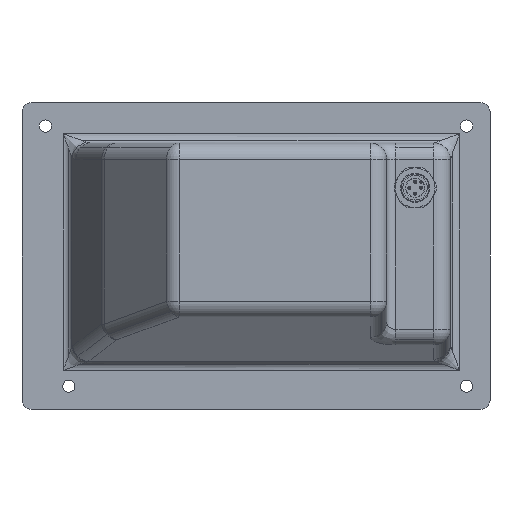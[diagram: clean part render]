
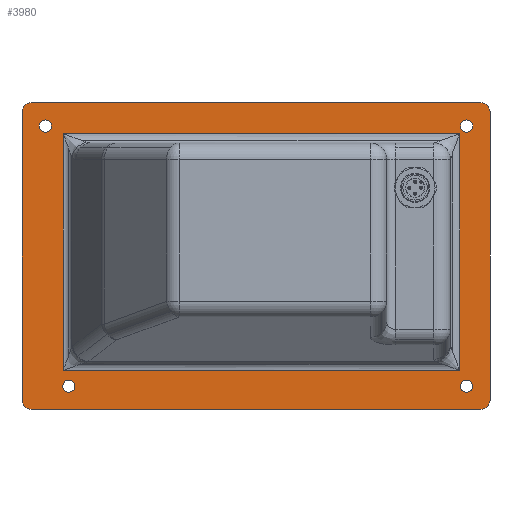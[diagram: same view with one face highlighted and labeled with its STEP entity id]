
A CAD part, left-side view. The second image highlights one B-rep face of the part: STEP entity #3980.
In plain terms, the highlighted planar face has unit normal (-1, 0, 0).
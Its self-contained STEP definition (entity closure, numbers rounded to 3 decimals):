
#446=CARTESIAN_POINT('',(-14.,-87.,-48.884));
#447=VERTEX_POINT('',#446);
#455=CARTESIAN_POINT('',(-14.,-87.,52.25));
#456=VERTEX_POINT('',#455);
#457=CARTESIAN_POINT('',(-14.,-87.,-48.884));
#458=DIRECTION('',(0.0,0.0,1.0));
#459=VECTOR('',#458,101.134);
#460=LINE('',#457,#459);
#461=EDGE_CURVE('',#447,#456,#460,.T.);
#495=CARTESIAN_POINT('',(-14.,82.38,52.25));
#496=VERTEX_POINT('',#495);
#497=CARTESIAN_POINT('',(-14.,-87.,52.25));
#498=DIRECTION('',(0.0,1.0,0.0));
#499=VECTOR('',#498,169.38);
#500=LINE('',#497,#499);
#501=EDGE_CURVE('',#456,#496,#500,.T.);
#2605=CARTESIAN_POINT('',(-14.,82.6,-55.65));
#2606=VERTEX_POINT('',#2605);
#2615=CARTESIAN_POINT('',(-14.,77.4,-55.65));
#2616=VERTEX_POINT('',#2615);
#2617=CARTESIAN_POINT('',(-14.,80.,-55.65));
#2618=DIRECTION('',(1.0,0.0,0.0));
#2619=DIRECTION('',(0.0,1.0,0.0));
#2620=AXIS2_PLACEMENT_3D('',#2617,#2618,#2619);
#2621=CIRCLE('',#2620,2.6);
#2622=EDGE_CURVE('',#2616,#2606,#2621,.T.);
#2721=CARTESIAN_POINT('',(-14.,-87.4,55.55));
#2722=VERTEX_POINT('',#2721);
#2731=CARTESIAN_POINT('',(-14.,-92.6,55.55));
#2732=VERTEX_POINT('',#2731);
#2733=CARTESIAN_POINT('',(-14.,-90.0,55.55));
#2734=DIRECTION('',(1.0,0.0,0.0));
#2735=DIRECTION('',(0.0,1.0,0.0));
#2736=AXIS2_PLACEMENT_3D('',#2733,#2734,#2735);
#2737=CIRCLE('',#2736,2.6);
#2738=EDGE_CURVE('',#2732,#2722,#2737,.T.);
#2837=CARTESIAN_POINT('',(-14.,92.6,55.55));
#2838=VERTEX_POINT('',#2837);
#2847=CARTESIAN_POINT('',(-14.,87.4,55.55));
#2848=VERTEX_POINT('',#2847);
#2849=CARTESIAN_POINT('',(-14.,90.0,55.55));
#2850=DIRECTION('',(1.0,0.0,0.0));
#2851=DIRECTION('',(0.0,1.0,0.0));
#2852=AXIS2_PLACEMENT_3D('',#2849,#2850,#2851);
#2853=CIRCLE('',#2852,2.6);
#2854=EDGE_CURVE('',#2848,#2838,#2853,.T.);
#2953=CARTESIAN_POINT('',(-14.,-87.4,-55.65));
#2954=VERTEX_POINT('',#2953);
#2963=CARTESIAN_POINT('',(-14.,-92.6,-55.65));
#2964=VERTEX_POINT('',#2963);
#2965=CARTESIAN_POINT('',(-14.,-90.,-55.65));
#2966=DIRECTION('',(1.0,0.0,0.0));
#2967=DIRECTION('',(0.0,1.0,0.0));
#2968=AXIS2_PLACEMENT_3D('',#2965,#2966,#2967);
#2969=CIRCLE('',#2968,2.6);
#2970=EDGE_CURVE('',#2964,#2954,#2969,.T.);
#3255=CARTESIAN_POINT('',(-14.,98.828,-64.378));
#3256=VERTEX_POINT('',#3255);
#3265=CARTESIAN_POINT('',(-14.,100.0,-61.55));
#3266=VERTEX_POINT('',#3265);
#3267=CARTESIAN_POINT('',(-14.,96.0,-61.55));
#3268=DIRECTION('',(1.,0.,0.));
#3269=DIRECTION('',(0.,0.707,-0.707));
#3270=AXIS2_PLACEMENT_3D('',#3267,#3268,#3269);
#3271=CIRCLE('',#3270,4.0);
#3272=EDGE_CURVE('',#3256,#3266,#3271,.T.);
#3299=CARTESIAN_POINT('',(-14.,98.828,64.378));
#3300=VERTEX_POINT('',#3299);
#3316=CARTESIAN_POINT('',(-14.,100.0,61.55));
#3317=VERTEX_POINT('',#3316);
#3324=CARTESIAN_POINT('',(-14.,96.0,61.55));
#3325=DIRECTION('',(1.,0.,0.));
#3326=DIRECTION('',(0.,0.707,0.707));
#3327=AXIS2_PLACEMENT_3D('',#3324,#3325,#3326);
#3328=CIRCLE('',#3327,4.0);
#3329=EDGE_CURVE('',#3317,#3300,#3328,.T.);
#3383=CARTESIAN_POINT('',(-14.,-98.828,-64.378));
#3384=VERTEX_POINT('',#3383);
#3400=CARTESIAN_POINT('',(-14.,-100.0,-61.55));
#3401=VERTEX_POINT('',#3400);
#3408=CARTESIAN_POINT('',(-14.,-96.0,-61.55));
#3409=DIRECTION('',(1.,0.,0.));
#3410=DIRECTION('',(0.,-0.707,-0.707));
#3411=AXIS2_PLACEMENT_3D('',#3408,#3409,#3410);
#3412=CIRCLE('',#3411,4.0);
#3413=EDGE_CURVE('',#3401,#3384,#3412,.T.);
#3463=CARTESIAN_POINT('',(-14.,-98.828,64.378));
#3464=VERTEX_POINT('',#3463);
#3473=CARTESIAN_POINT('',(-14.,-100.0,61.55));
#3474=VERTEX_POINT('',#3473);
#3475=CARTESIAN_POINT('',(-14.,-96.0,61.55));
#3476=DIRECTION('',(1.,0.,0.));
#3477=DIRECTION('',(0.,-0.707,0.707));
#3478=AXIS2_PLACEMENT_3D('',#3475,#3476,#3477);
#3479=CIRCLE('',#3478,4.0);
#3480=EDGE_CURVE('',#3464,#3474,#3479,.T.);
#3582=CARTESIAN_POINT('',(-14.,-96.0,65.55));
#3583=VERTEX_POINT('',#3582);
#3590=CARTESIAN_POINT('',(-14.,-96.0,61.55));
#3591=DIRECTION('',(1.,0.,0.));
#3592=DIRECTION('',(0.,-0.707,0.707));
#3593=AXIS2_PLACEMENT_3D('',#3590,#3591,#3592);
#3594=CIRCLE('',#3593,4.0);
#3595=EDGE_CURVE('',#3583,#3464,#3594,.T.);
#3665=CARTESIAN_POINT('',(-14.,-96.0,-65.55));
#3666=VERTEX_POINT('',#3665);
#3667=CARTESIAN_POINT('',(-14.,-96.0,-61.55));
#3668=DIRECTION('',(1.,0.,0.));
#3669=DIRECTION('',(0.,-0.707,-0.707));
#3670=AXIS2_PLACEMENT_3D('',#3667,#3668,#3669);
#3671=CIRCLE('',#3670,4.0);
#3672=EDGE_CURVE('',#3384,#3666,#3671,.T.);
#3754=CARTESIAN_POINT('',(-14.,96.0,65.55));
#3755=VERTEX_POINT('',#3754);
#3756=CARTESIAN_POINT('',(-14.,96.0,61.55));
#3757=DIRECTION('',(1.,0.,0.));
#3758=DIRECTION('',(0.,0.707,0.707));
#3759=AXIS2_PLACEMENT_3D('',#3756,#3757,#3758);
#3760=CIRCLE('',#3759,4.0);
#3761=EDGE_CURVE('',#3300,#3755,#3760,.T.);
#3828=CARTESIAN_POINT('',(-14.,96.0,65.55));
#3829=DIRECTION('',(0.0,-1.0,0.0));
#3830=VECTOR('',#3829,192.0);
#3831=LINE('',#3828,#3830);
#3832=EDGE_CURVE('',#3755,#3583,#3831,.T.);
#3847=CARTESIAN_POINT('',(-14.,100.0,61.55));
#3848=DIRECTION('',(0.0,0.0,-1.0));
#3849=VECTOR('',#3848,123.1);
#3850=LINE('',#3847,#3849);
#3851=EDGE_CURVE('',#3317,#3266,#3850,.T.);
#3863=CARTESIAN_POINT('',(-14.,96.0,-65.55));
#3864=VERTEX_POINT('',#3863);
#3871=CARTESIAN_POINT('',(-14.,96.0,-61.55));
#3872=DIRECTION('',(1.,0.,0.));
#3873=DIRECTION('',(0.,0.707,-0.707));
#3874=AXIS2_PLACEMENT_3D('',#3871,#3872,#3873);
#3875=CIRCLE('',#3874,4.0);
#3876=EDGE_CURVE('',#3864,#3256,#3875,.T.);
#3888=CARTESIAN_POINT('',(-14.,-96.0,-65.55));
#3889=DIRECTION('',(0.0,1.0,0.0));
#3890=VECTOR('',#3889,192.0);
#3891=LINE('',#3888,#3890);
#3892=EDGE_CURVE('',#3666,#3864,#3891,.T.);
#3898=CARTESIAN_POINT('',(-14.,0.0,-65.55));
#3899=DIRECTION('',(-1.0,0.0,0.0));
#3900=DIRECTION('',(0.0,0.0,1.0));
#3901=AXIS2_PLACEMENT_3D('',#3898,#3899,#3900);
#3902=PLANE('',#3901);
#3903=ORIENTED_EDGE('',*,*,#3329,.F.);
#3904=ORIENTED_EDGE('',*,*,#3851,.T.);
#3905=ORIENTED_EDGE('',*,*,#3272,.F.);
#3906=ORIENTED_EDGE('',*,*,#3876,.F.);
#3907=ORIENTED_EDGE('',*,*,#3892,.F.);
#3908=ORIENTED_EDGE('',*,*,#3672,.F.);
#3909=ORIENTED_EDGE('',*,*,#3413,.F.);
#3910=CARTESIAN_POINT('',(-14.,-100.0,61.55));
#3911=DIRECTION('',(0.0,0.0,-1.0));
#3912=VECTOR('',#3911,123.1);
#3913=LINE('',#3910,#3912);
#3914=EDGE_CURVE('',#3474,#3401,#3913,.T.);
#3915=ORIENTED_EDGE('',*,*,#3914,.F.);
#3916=ORIENTED_EDGE('',*,*,#3480,.F.);
#3917=ORIENTED_EDGE('',*,*,#3595,.F.);
#3918=ORIENTED_EDGE('',*,*,#3832,.F.);
#3919=ORIENTED_EDGE('',*,*,#3761,.F.);
#3920=EDGE_LOOP('',(#3903,#3904,#3905,#3906,#3907,#3908,#3909,#3915,#3916,#3917,#3918,#3919));
#3921=FACE_OUTER_BOUND('',#3920,.T.);
#3922=ORIENTED_EDGE('',*,*,#501,.F.);
#3923=ORIENTED_EDGE('',*,*,#461,.F.);
#3924=CARTESIAN_POINT('',(-14.,82.38,-48.884));
#3925=VERTEX_POINT('',#3924);
#3926=CARTESIAN_POINT('',(-14.,82.38,-48.884));
#3927=DIRECTION('',(0.0,-1.0,0.0));
#3928=VECTOR('',#3927,169.38);
#3929=LINE('',#3926,#3928);
#3930=EDGE_CURVE('',#3925,#447,#3929,.T.);
#3931=ORIENTED_EDGE('',*,*,#3930,.F.);
#3932=CARTESIAN_POINT('',(-14.,82.38,52.25));
#3933=DIRECTION('',(0.0,0.0,-1.0));
#3934=VECTOR('',#3933,101.134);
#3935=LINE('',#3932,#3934);
#3936=EDGE_CURVE('',#496,#3925,#3935,.T.);
#3937=ORIENTED_EDGE('',*,*,#3936,.F.);
#3938=EDGE_LOOP('',(#3922,#3923,#3931,#3937));
#3939=FACE_BOUND('',#3938,.T.);
#3940=ORIENTED_EDGE('',*,*,#2622,.T.);
#3941=CARTESIAN_POINT('',(-14.,80.,-55.65));
#3942=DIRECTION('',(1.0,0.0,0.0));
#3943=DIRECTION('',(0.0,1.0,0.0));
#3944=AXIS2_PLACEMENT_3D('',#3941,#3942,#3943);
#3945=CIRCLE('',#3944,2.6);
#3946=EDGE_CURVE('',#2606,#2616,#3945,.T.);
#3947=ORIENTED_EDGE('',*,*,#3946,.T.);
#3948=EDGE_LOOP('',(#3940,#3947));
#3949=FACE_BOUND('',#3948,.T.);
#3950=ORIENTED_EDGE('',*,*,#2738,.T.);
#3951=CARTESIAN_POINT('',(-14.,-90.0,55.55));
#3952=DIRECTION('',(1.0,0.0,0.0));
#3953=DIRECTION('',(0.0,1.0,0.0));
#3954=AXIS2_PLACEMENT_3D('',#3951,#3952,#3953);
#3955=CIRCLE('',#3954,2.6);
#3956=EDGE_CURVE('',#2722,#2732,#3955,.T.);
#3957=ORIENTED_EDGE('',*,*,#3956,.T.);
#3958=EDGE_LOOP('',(#3950,#3957));
#3959=FACE_BOUND('',#3958,.T.);
#3960=ORIENTED_EDGE('',*,*,#2854,.T.);
#3961=CARTESIAN_POINT('',(-14.,90.0,55.55));
#3962=DIRECTION('',(1.0,0.0,0.0));
#3963=DIRECTION('',(0.0,1.0,0.0));
#3964=AXIS2_PLACEMENT_3D('',#3961,#3962,#3963);
#3965=CIRCLE('',#3964,2.6);
#3966=EDGE_CURVE('',#2838,#2848,#3965,.T.);
#3967=ORIENTED_EDGE('',*,*,#3966,.T.);
#3968=EDGE_LOOP('',(#3960,#3967));
#3969=FACE_BOUND('',#3968,.T.);
#3970=ORIENTED_EDGE('',*,*,#2970,.T.);
#3971=CARTESIAN_POINT('',(-14.,-90.,-55.65));
#3972=DIRECTION('',(1.0,0.0,0.0));
#3973=DIRECTION('',(0.0,1.0,0.0));
#3974=AXIS2_PLACEMENT_3D('',#3971,#3972,#3973);
#3975=CIRCLE('',#3974,2.6);
#3976=EDGE_CURVE('',#2954,#2964,#3975,.T.);
#3977=ORIENTED_EDGE('',*,*,#3976,.T.);
#3978=EDGE_LOOP('',(#3970,#3977));
#3979=FACE_BOUND('',#3978,.T.);
#3980=ADVANCED_FACE('',(#3921,#3939,#3949,#3959,#3969,#3979),#3902,.T.);
